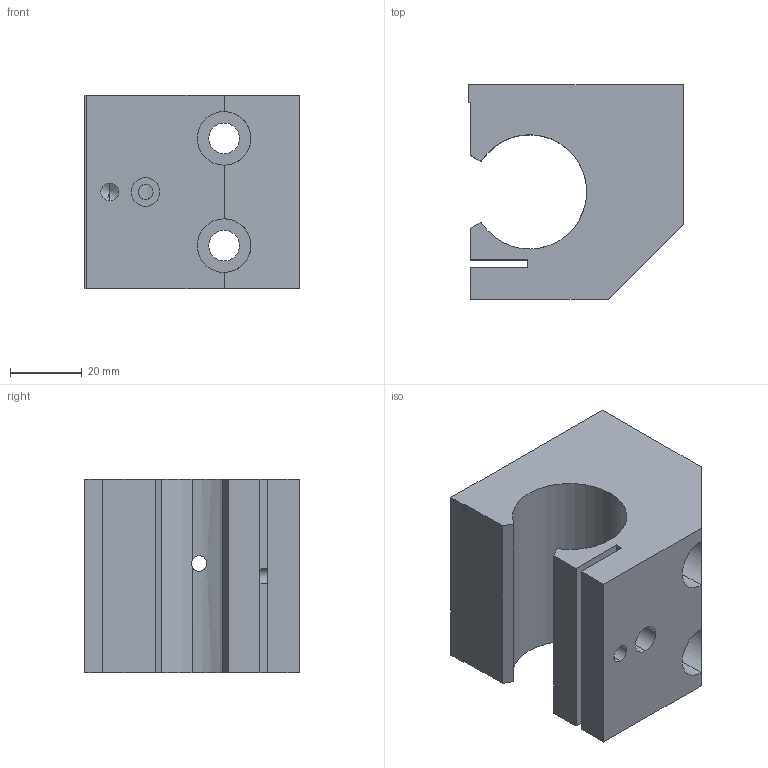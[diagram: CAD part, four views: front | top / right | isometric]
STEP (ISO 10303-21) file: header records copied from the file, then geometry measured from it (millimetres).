
FILE_DESCRIPTION (( 'STEP AP214' ), '1' );
FILE_NAME ('KGSE72-20.step', '2020-03-04T13:24:25', ( '' ), ( '' ), 'SwSTEP 2.0', 'SolidWorks 2019', '' );
FILE_SCHEMA (( 'AUTOMOTIVE_DESIGN' ));
Length unit declared in the file: millimetre
Products named in the file (1): KGSE72-20
Bounding box: 60 x 60 x 54 mm (x, y, z)
Volume: 122235.1 mm3; surface area: 26920.1 mm2
Topology: 1 solids, 1 shells, 44 faces, 123 edges, 79 vertices
Faces by surface type: cylinder 20, plane 20, cone 4
Entity records: 1677 total; most frequent: CARTESIAN_POINT 367, DIRECTION 243, ORIENTED_EDGE 242, EDGE_CURVE 121, AXIS2_PLACEMENT_3D 85, VERTEX_POINT 79, LINE 73, VECTOR 73
